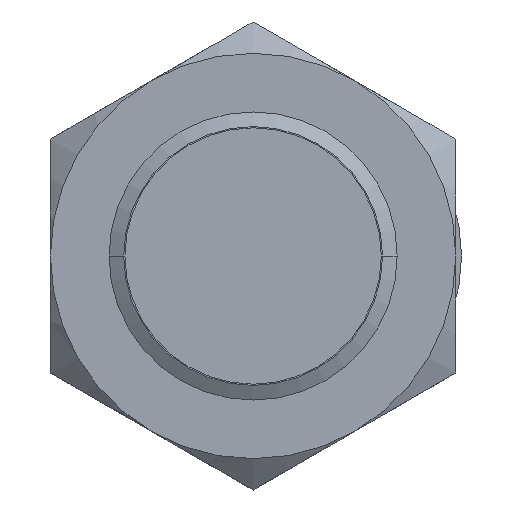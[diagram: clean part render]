
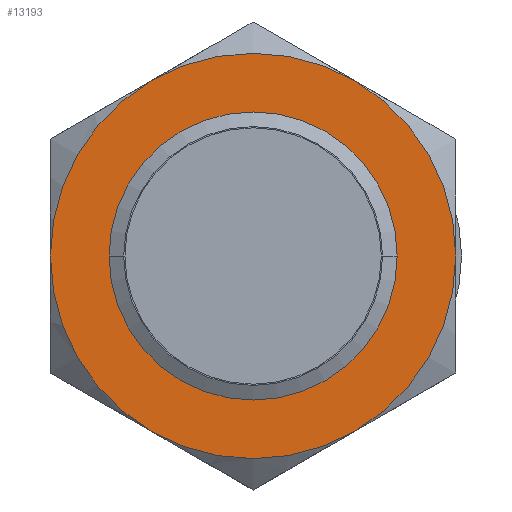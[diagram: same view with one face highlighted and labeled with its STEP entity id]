
A CAD part, left-side view. The second image highlights one B-rep face of the part: STEP entity #13193.
In plain terms, the highlighted planar face has unit normal (-1, 0, 0).
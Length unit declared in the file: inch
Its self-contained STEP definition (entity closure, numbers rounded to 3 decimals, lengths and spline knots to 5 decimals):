
#400 = ORIENTED_EDGE ( 'NONE', *, *, #15744, .T. ) ;
#694 = CARTESIAN_POINT ( 'NONE',  ( 0.72926, 0., -0.236 ) ) ;
#988 = VERTEX_POINT ( 'NONE', #10949 ) ;
#1252 = EDGE_CURVE ( 'NONE', #2269, #988, #11087, .T. ) ;
#1674 = ORIENTED_EDGE ( 'NONE', *, *, #1252, .T. ) ;
#2250 = CIRCLE ( 'NONE', #2251, 0.236 ) ;
#2251 = AXIS2_PLACEMENT_3D ( 'NONE', #2252, #2253, #2254 ) ;
#2252 = CARTESIAN_POINT ( 'NONE',  ( 0.72926, 0., 0. ) ) ;
#2253 = DIRECTION ( 'NONE',  ( 1., 0., 0. ) ) ;
#2254 = DIRECTION ( 'NONE',  ( 0., 0., 1. ) ) ;
#2269 = VERTEX_POINT ( 'NONE', #11723 ) ;
#2525 = EDGE_CURVE ( 'NONE', #9955, #2269, #11829, .T. ) ;
#2949 = ORIENTED_EDGE ( 'NONE', *, *, #2525, .T. ) ;
#3534 = CARTESIAN_POINT ( 'NONE',  ( 0.72926, 0.166, -0.28752 ) ) ;
#3629 = CIRCLE ( 'NONE', #3630, 0.332 ) ;
#3630 = AXIS2_PLACEMENT_3D ( 'NONE', #3631, #3632, #3633 ) ;
#3631 = CARTESIAN_POINT ( 'NONE',  ( 0.72926, 0., 0. ) ) ;
#3632 = DIRECTION ( 'NONE',  ( -1., 0., 0. ) ) ;
#3633 = DIRECTION ( 'NONE',  ( 0., 1., 0. ) ) ;
#4344 = CARTESIAN_POINT ( 'NONE',  ( 0.72926, 0.332, 0. ) ) ;
#4454 = CARTESIAN_POINT ( 'NONE',  ( 0.72926, 0.166, 0.28752 ) ) ;
#4563 = CIRCLE ( 'NONE', #4564, 0.332 ) ;
#4564 = AXIS2_PLACEMENT_3D ( 'NONE', #4565, #4566, #4567 ) ;
#4565 = CARTESIAN_POINT ( 'NONE',  ( 0.72926, 0., 0. ) ) ;
#4566 = DIRECTION ( 'NONE',  ( -1., 0., 0. ) ) ;
#4567 = DIRECTION ( 'NONE',  ( 0., 1., 0. ) ) ;
#6300 = FACE_BOUND ( 'NONE', #12915, .T. ) ;
#6301 = FACE_OUTER_BOUND ( 'NONE', #11438, .T. ) ;
#6302 = PLANE ( 'NONE',  #6303 ) ;
#6303 = AXIS2_PLACEMENT_3D ( 'NONE', #6304, #6305, #6306 ) ;
#6304 = CARTESIAN_POINT ( 'NONE',  ( 0.72926, 0., 0. ) ) ;
#6305 = DIRECTION ( 'NONE',  ( -1., 0., 0. ) ) ;
#6306 = DIRECTION ( 'NONE',  ( 0., -1., 0. ) ) ;
#6484 = CARTESIAN_POINT ( 'NONE',  ( 0.72926, 0., 0.236 ) ) ;
#6613 = CIRCLE ( 'NONE', #6614, 0.236 ) ;
#6614 = AXIS2_PLACEMENT_3D ( 'NONE', #6615, #6616, #6617 ) ;
#6615 = CARTESIAN_POINT ( 'NONE',  ( 0.72926, 0., 0. ) ) ;
#6616 = DIRECTION ( 'NONE',  ( 1., 0., 0. ) ) ;
#6617 = DIRECTION ( 'NONE',  ( 0., 0., 1. ) ) ;
#7199 = CIRCLE ( 'NONE', #7200, 0.332 ) ;
#7200 = AXIS2_PLACEMENT_3D ( 'NONE', #7203, #7204, #7205 ) ;
#7203 = CARTESIAN_POINT ( 'NONE',  ( 0.72926, 0., 0. ) ) ;
#7204 = DIRECTION ( 'NONE',  ( -1., 0., 0. ) ) ;
#7205 = DIRECTION ( 'NONE',  ( 0., 1., 0. ) ) ;
#7707 = CARTESIAN_POINT ( 'NONE',  ( 0.72926, -0.166, 0.28752 ) ) ;
#7916 = CIRCLE ( 'NONE', #7917, 0.332 ) ;
#7917 = AXIS2_PLACEMENT_3D ( 'NONE', #7918, #7919, #7920 ) ;
#7918 = CARTESIAN_POINT ( 'NONE',  ( 0.72926, 0., 0. ) ) ;
#7919 = DIRECTION ( 'NONE',  ( -1., 0., 0. ) ) ;
#7920 = DIRECTION ( 'NONE',  ( 0., 1., 0. ) ) ;
#8788 = VERTEX_POINT ( 'NONE', #694 ) ;
#9398 = EDGE_CURVE ( 'NONE', #8788, #13447, #2250, .T. ) ;
#9955 = VERTEX_POINT ( 'NONE', #3534 ) ;
#9996 = EDGE_CURVE ( 'NONE', #10264, #9955, #3629, .T. ) ;
#10101 = ORIENTED_EDGE ( 'NONE', *, *, #9996, .T. ) ;
#10264 = VERTEX_POINT ( 'NONE', #4344 ) ;
#10311 = VERTEX_POINT ( 'NONE', #4454 ) ;
#10380 = EDGE_CURVE ( 'NONE', #10311, #10264, #4563, .T. ) ;
#10651 = ORIENTED_EDGE ( 'NONE', *, *, #10380, .T. ) ;
#10949 = CARTESIAN_POINT ( 'NONE',  ( 0.72926, -0.332, 0. ) ) ;
#11087 = CIRCLE ( 'NONE', #11088, 0.332 ) ;
#11088 = AXIS2_PLACEMENT_3D ( 'NONE', #11089, #11090, #11091 ) ;
#11089 = CARTESIAN_POINT ( 'NONE',  ( 0.72926, 0., 0. ) ) ;
#11090 = DIRECTION ( 'NONE',  ( -1., 0., 0. ) ) ;
#11091 = DIRECTION ( 'NONE',  ( 0., 1., 0. ) ) ;
#11438 = EDGE_LOOP ( 'NONE', ( #10651, #10101, #2949, #1674, #400, #14885 ) ) ;
#11721 = ORIENTED_EDGE ( 'NONE', *, *, #9398, .T. ) ;
#11723 = CARTESIAN_POINT ( 'NONE',  ( 0.72926, -0.166, -0.28752 ) ) ;
#11829 = CIRCLE ( 'NONE', #11830, 0.332 ) ;
#11830 = AXIS2_PLACEMENT_3D ( 'NONE', #11831, #11832, #11833 ) ;
#11831 = CARTESIAN_POINT ( 'NONE',  ( 0.72926, 0., 0. ) ) ;
#11832 = DIRECTION ( 'NONE',  ( -1., 0., 0. ) ) ;
#11833 = DIRECTION ( 'NONE',  ( 0., 1., 0. ) ) ;
#12313 = ORIENTED_EDGE ( 'NONE', *, *, #13617, .T. ) ;
#12915 = EDGE_LOOP ( 'NONE', ( #12313, #11721 ) ) ;
#13193 = ADVANCED_FACE ( 'NONE', ( #6300, #6301 ), #6302, .T. ) ;
#13447 = VERTEX_POINT ( 'NONE', #6484 ) ;
#13617 = EDGE_CURVE ( 'NONE', #13447, #8788, #6613, .T. ) ;
#14457 = EDGE_CURVE ( 'NONE', #15482, #10311, #7199, .T. ) ;
#14885 = ORIENTED_EDGE ( 'NONE', *, *, #14457, .T. ) ;
#15482 = VERTEX_POINT ( 'NONE', #7707 ) ;
#15744 = EDGE_CURVE ( 'NONE', #988, #15482, #7916, .T. ) ;
